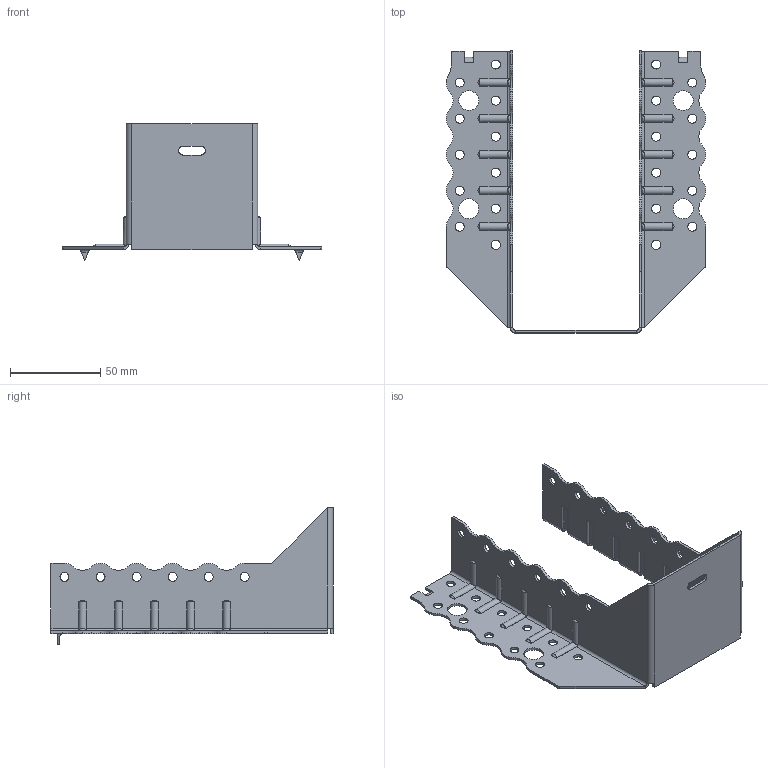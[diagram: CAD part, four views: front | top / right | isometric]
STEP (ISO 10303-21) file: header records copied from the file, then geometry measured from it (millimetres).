
FILE_DESCRIPTION (( 'STEP AP203' ), '1' );
FILE_NAME ('30617TOP.STEP', '2021-04-07T12:41:44', ( '' ), ( '' ), 'SwSTEP 2.0', 'SolidWorks 2013', '' );
FILE_SCHEMA (( 'CONFIG_CONTROL_DESIGN' ));
Length unit declared in the file: millimetre
Products named in the file (1): 30617TOP
Bounding box: 144 x 156.5 x 76 mm (x, y, z)
Volume: 38608.6 mm3; surface area: 54912.4 mm2
Topology: 1 solids, 1 shells, 428 faces, 1154 edges, 728 vertices
Faces by surface type: cylinder 269, plane 119, torus 20, bspline 20
Entity records: 15880 total; most frequent: CARTESIAN_POINT 5007, ORIENTED_EDGE 2308, DIRECTION 2228, EDGE_CURVE 1154, AXIS2_PLACEMENT_3D 813, VERTEX_POINT 728, VECTOR 602, LINE 602
